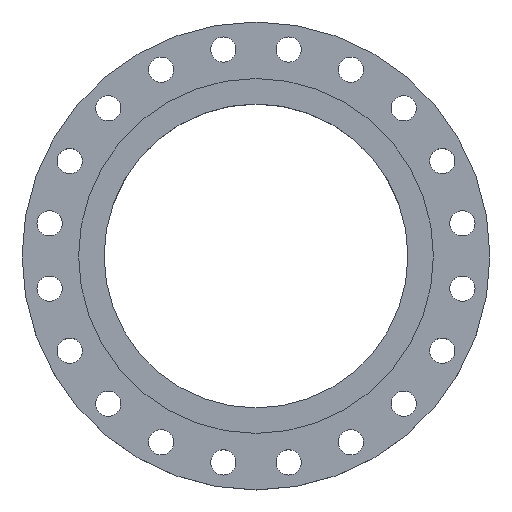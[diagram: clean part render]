
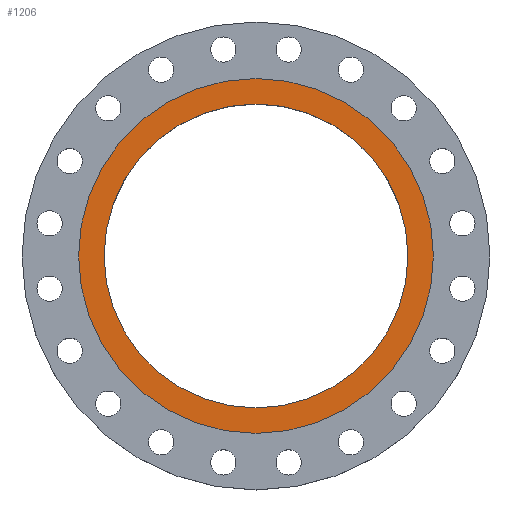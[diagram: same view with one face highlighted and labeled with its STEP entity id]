
A CAD part, top view. The second image highlights one B-rep face of the part: STEP entity #1206.
In plain terms, the highlighted planar face has unit normal (0, 0, 1).
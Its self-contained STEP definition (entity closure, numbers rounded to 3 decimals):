
#145 = DIRECTION ( 'NONE',  ( -1., 0., 0. ) ) ;
#148 = DIRECTION ( 'NONE',  ( 0., 0., -1. ) ) ;
#149 = CARTESIAN_POINT ( 'NONE',  ( 0., 0., 0. ) ) ;
#296 = EDGE_CURVE ( 'NONE', #1865, #1128, #1172, .T. ) ;
#361 = DIRECTION ( 'NONE',  ( -1., 0., 0. ) ) ;
#362 = DIRECTION ( 'NONE',  ( 0., 0., -1. ) ) ;
#365 = CARTESIAN_POINT ( 'NONE',  ( 0., 0., 0. ) ) ;
#441 = AXIS2_PLACEMENT_3D ( 'NONE', #488, #487, #486 ) ;
#478 = CIRCLE ( 'NONE', #480, 289. ) ;
#480 = AXIS2_PLACEMENT_3D ( 'NONE', #829, #828, #826 ) ;
#486 = DIRECTION ( 'NONE',  ( 1., 0., 0. ) ) ;
#487 = DIRECTION ( 'NONE',  ( 0., 0., 1. ) ) ;
#488 = CARTESIAN_POINT ( 'NONE',  ( 0., 0., 0. ) ) ;
#489 = PLANE ( 'NONE',  #441 ) ;
#490 = FACE_OUTER_BOUND ( 'NONE', #1087, .T. ) ;
#491 = FACE_BOUND ( 'NONE', #1058, .T. ) ;
#497 = CARTESIAN_POINT ( 'NONE',  ( -289., 0., 0. ) ) ;
#547 = EDGE_CURVE ( 'NONE', #1193, #1139, #478, .T. ) ;
#549 = CARTESIAN_POINT ( 'NONE',  ( 289., 0., 0. ) ) ;
#569 = CARTESIAN_POINT ( 'NONE',  ( 337.5, 0., 0. ) ) ;
#605 = AXIS2_PLACEMENT_3D ( 'NONE', #365, #362, #361 ) ;
#795 = CARTESIAN_POINT ( 'NONE',  ( -337.5, 0., 0. ) ) ;
#796 = AXIS2_PLACEMENT_3D ( 'NONE', #918, #916, #915 ) ;
#826 = DIRECTION ( 'NONE',  ( -1., 0., 0. ) ) ;
#828 = DIRECTION ( 'NONE',  ( 0., 0., -1. ) ) ;
#829 = CARTESIAN_POINT ( 'NONE',  ( 0., 0., 0. ) ) ;
#915 = DIRECTION ( 'NONE',  ( -1., 0., 0. ) ) ;
#916 = DIRECTION ( 'NONE',  ( 0., 0., -1. ) ) ;
#918 = CARTESIAN_POINT ( 'NONE',  ( 0., 0., 0. ) ) ;
#1058 = EDGE_LOOP ( 'NONE', ( #1155, #1153 ) ) ;
#1082 = CIRCLE ( 'NONE', #605, 289. ) ;
#1087 = EDGE_LOOP ( 'NONE', ( #1151, #1149 ) ) ;
#1128 = VERTEX_POINT ( 'NONE', #569 ) ;
#1139 = VERTEX_POINT ( 'NONE', #549 ) ;
#1149 = ORIENTED_EDGE ( 'NONE', *, *, #1664, .F. ) ;
#1151 = ORIENTED_EDGE ( 'NONE', *, *, #296, .F. ) ;
#1153 = ORIENTED_EDGE ( 'NONE', *, *, #1418, .T. ) ;
#1155 = ORIENTED_EDGE ( 'NONE', *, *, #547, .T. ) ;
#1172 = CIRCLE ( 'NONE', #796, 337.5 ) ;
#1193 = VERTEX_POINT ( 'NONE', #497 ) ;
#1206 = ADVANCED_FACE ( 'NONE', ( #491, #490 ), #489, .T. ) ;
#1418 = EDGE_CURVE ( 'NONE', #1139, #1193, #1082, .T. ) ;
#1548 = CIRCLE ( 'NONE', #1549, 337.5 ) ;
#1549 = AXIS2_PLACEMENT_3D ( 'NONE', #149, #148, #145 ) ;
#1664 = EDGE_CURVE ( 'NONE', #1128, #1865, #1548, .T. ) ;
#1865 = VERTEX_POINT ( 'NONE', #795 ) ;
